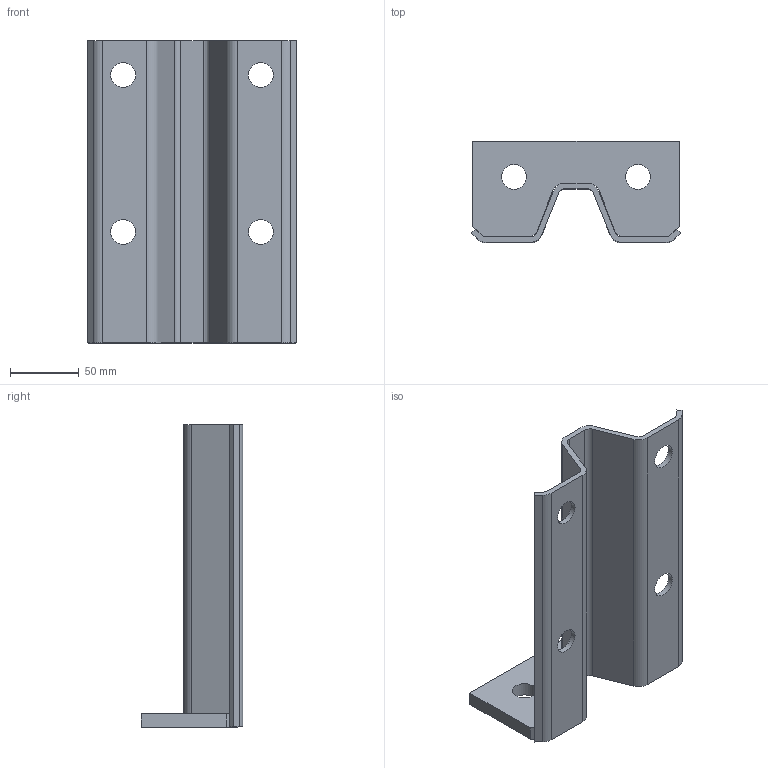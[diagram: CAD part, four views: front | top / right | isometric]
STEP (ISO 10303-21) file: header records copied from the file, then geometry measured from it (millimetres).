
FILE_DESCRIPTION(/* description */ (''),/* implementation_level */ '2;1');
FILE_NAME(/* name */ 'B265W90.stp',/* time_stamp */ '2023-07-03T11:09:51+02:00',/* author */ ('woriedl'),/* organization */ (''),/* preprocessor_version */ 'ST-DEVELOPER v19.2',/* originating_system */ 'AutoCAD Mechanical',/* authorisation */ '');
FILE_SCHEMA (('AUTOMOTIVE_DESIGN { 1 0 10303 214 3 1 1 }'));
Length unit declared in the file: centimetre
Products named in the file (1): Product
Bounding box: 151.72 x 74 x 220 mm (x, y, z)
Volume: 254823.2 mm3; surface area: 111711.4 mm2
Topology: 1 solids, 1 shells, 54 faces, 162 edges, 106 vertices
Faces by surface type: plane 30, cylinder 24
Full cylindrical faces by diameter (mm): 18 x6
Entity records: 1881 total; most frequent: ORIENTED_EDGE 324, CARTESIAN_POINT 323, DIRECTION 320, EDGE_CURVE 162, LINE 114, VECTOR 114, VERTEX_POINT 106, AXIS2_PLACEMENT_3D 103
